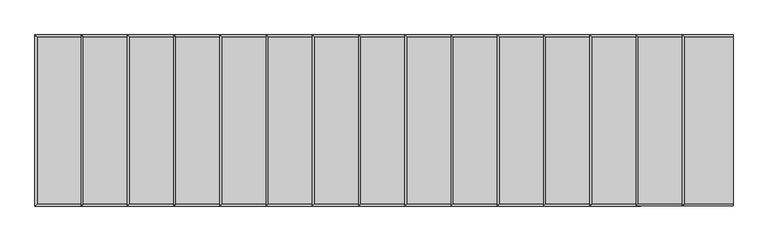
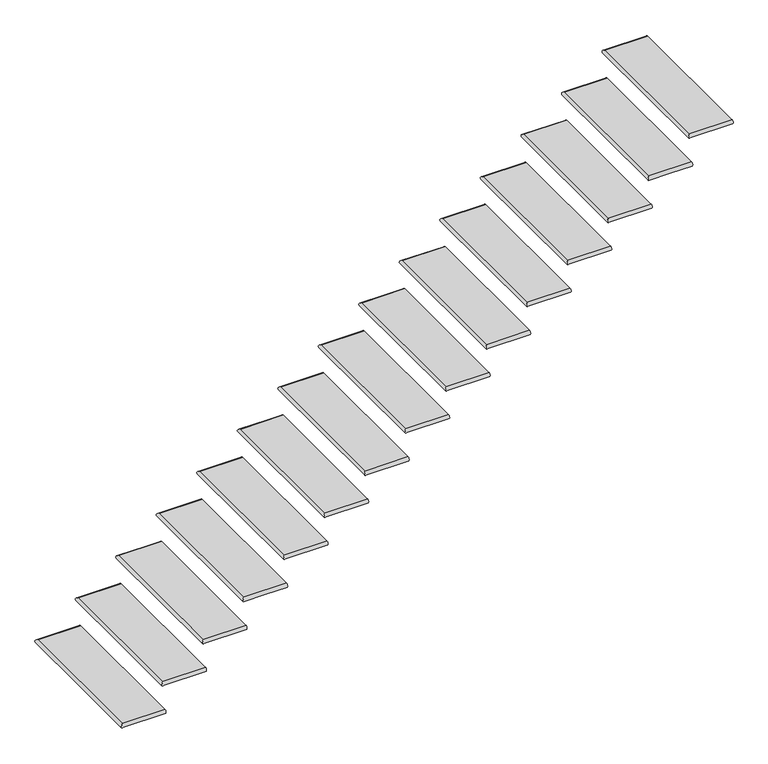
"""IFC4 building model written with IfcOpenShell, lengths in millimetres: stair flight geometry."""

from ifc_helpers import new_model, si_unit, frame, origin, place, context, project, spatial, circle_curve, ellipse_curve, source, transform, mapped, element, save
from ifc_brep_helpers import plane_surface, cylinder_surface, advanced_brep


def stair_flight_3500c2e6(model_context):
    return source(origin(), model_context, "Body", "AdvancedBrep", [
        advanced_brep(
        [(-27218.1481446, -8236.0871906, 165.1), (-27218.1481446, -8236.0871906, 190.5), (-27218.1481446, -7321.6871906, 190.5), (-27218.1481446, -7321.6871906, 165.1), (-26951.4481446, -8236.0871906, 190.5), (-26951.4481446, -7321.6871906, 190.5), (-26951.4481446, -7321.6871906, 165.1), (-26951.4481446, -8236.0871906, 165.1)],
        [
            (0, 1, ellipse_curve(frame((-27218.1481446, -8236.0871906, 177.8), z_axis=(-0.7071067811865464, 0.7071067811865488, 0.0), x_axis=(-0.7071067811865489, -0.707106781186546, 0.0)), 17.9605122, 12.7)),
            (1, 2),
            (2, 3, ellipse_curve(frame((-27218.1481446, -7321.6871906, 177.8), z_axis=(-0.7071067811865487, -0.7071067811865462, 0.0), x_axis=(0.7071067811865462, -0.707106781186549, 0.0)), 17.9605122, 12.7)),
            (3, 0),
            (4, 5),
            (5, 2),
            (1, 4),
            (6, 7),
            (7, 0),
            (3, 6),
            (4, 7, circle_curve(frame((-26951.4481446, -8236.0871906, 177.8), z_axis=(1.0, 0.0, 0.0), x_axis=(0.0, 1.0, 0.0)), 12.7)),
            (6, 5, circle_curve(frame((-26951.4481446, -7321.6871906, 177.8), z_axis=(1.0, 0.0, 0.0), x_axis=(0.0, -1.0, 0.0)), 12.7)),
        ],
        [
            cylinder_surface(frame((-27218.1481446, -8236.0871906, 177.8), z_axis=(0.0, -1.0, 0.0), x_axis=(1.0, 0.0, 0.0)), 12.7),
            plane_surface(frame((-27230.8481446, -7321.6871906, 190.5), z_axis=(0.0, 0.0, 1.0), x_axis=(-1.0, 0.0, 0.0))),
            plane_surface(frame((-27230.8481446, -7321.6871906, 165.1), z_axis=(0.0, 0.0, -1.0), x_axis=(1.0, 0.0, 0.0))),
            plane_surface(frame((-26951.4481446, -8236.0871906, 190.5), z_axis=(1.0, 0.0, 0.0), x_axis=(0.0, 0.0, -1.0))),
            cylinder_surface(frame((-26951.4481446, -8236.0871906, 177.8), z_axis=(1.0, 0.0, 0.0), x_axis=(0.0, 1.0, 0.0)), 12.7),
            cylinder_surface(frame((-27218.1481446, -7321.6871906, 177.8), z_axis=(-1.0, 0.0, 0.0), x_axis=(0.0, -1.0, 0.0)), 12.7),
        ],
        [
            (0, [[1, 2, 3, 4]]),
            (1, [[5, 6, -2, 7]]),
            (2, [[8, 9, -4, 10]]),
            (3, [[-5, 11, -8, 12]]),
            (4, [[-11, -7, -1, -9]]),
            (5, [[-3, -6, -12, -10]]),
        ],
    ),
        advanced_brep(
        [(-26697.4481446, -8236.0871906, 381.0), (-26697.4481446, -7321.6871906, 381.0), (-26964.1481446, -7321.6871906, 381.0), (-26964.1481446, -8236.0871906, 381.0), (-26697.4481446, -7321.6871906, 355.6), (-26697.4481446, -8236.0871906, 355.6), (-26964.1481446, -8236.0871906, 355.6), (-26964.1481446, -7321.6871906, 355.6)],
        [
            (0, 1),
            (1, 2),
            (2, 3),
            (3, 0),
            (4, 5),
            (5, 6),
            (6, 7),
            (7, 4),
            (0, 5, circle_curve(frame((-26697.4481446, -8236.0871906, 368.3), z_axis=(1.0, 0.0, 0.0), x_axis=(0.0, 1.0, 0.0)), 12.7)),
            (4, 1, circle_curve(frame((-26697.4481446, -7321.6871906, 368.3), z_axis=(1.0, 0.0, 0.0), x_axis=(0.0, -1.0, 0.0)), 12.7)),
            (3, 6, ellipse_curve(frame((-26964.1481446, -8236.0871906, 368.3), z_axis=(0.7071067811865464, -0.7071067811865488, 0.0), x_axis=(0.7071067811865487, 0.7071067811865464, 0.0)), 17.9605122, 12.7)),
            (2, 7, ellipse_curve(frame((-26964.1481446, -7321.6871906, 368.3), z_axis=(-0.7071067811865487, -0.7071067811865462, 0.0), x_axis=(0.7071067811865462, -0.707106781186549, 0.0)), 17.9605122, 12.7)),
        ],
        [
            plane_surface(frame((-26976.8481446, -7321.6871906, 381.0), z_axis=(0.0, 0.0, 1.0), x_axis=(-1.0, 0.0, 0.0))),
            plane_surface(frame((-26976.8481446, -7321.6871906, 355.6), z_axis=(0.0, 0.0, -1.0), x_axis=(1.0, 0.0, 0.0))),
            plane_surface(frame((-26697.4481446, -8236.0871906, 381.0), z_axis=(1.0, 0.0, 0.0), x_axis=(0.0, 0.0, -1.0))),
            cylinder_surface(frame((-26697.4481446, -8236.0871906, 368.3), z_axis=(1.0, 0.0, 0.0), x_axis=(0.0, 1.0, 0.0)), 12.7),
            cylinder_surface(frame((-26964.1481446, -8236.0871906, 368.3), z_axis=(0.0, -1.0, 0.0), x_axis=(1.0, 0.0, 0.0)), 12.7),
            cylinder_surface(frame((-26964.1481446, -7321.6871906, 368.3), z_axis=(-1.0, 0.0, 0.0), x_axis=(0.0, -1.0, 0.0)), 12.7),
        ],
        [
            (0, [[1, 2, 3, 4]]),
            (1, [[5, 6, 7, 8]]),
            (2, [[-1, 9, -5, 10]]),
            (3, [[-9, -4, 11, -6]]),
            (4, [[-11, -3, 12, -7]]),
            (5, [[-12, -2, -10, -8]]),
        ],
    ),
        advanced_brep(
        [(-26443.4481446, -8236.0871906, 571.5), (-26443.4481446, -7321.6871906, 571.5), (-26710.1481446, -7321.6871906, 571.5), (-26710.1481446, -8236.0871906, 571.5), (-26443.4481446, -7321.6871906, 546.1), (-26443.4481446, -8236.0871906, 546.1), (-26710.1481446, -8236.0871906, 546.1), (-26710.1481446, -7321.6871906, 546.1)],
        [
            (0, 1),
            (1, 2),
            (2, 3),
            (3, 0),
            (4, 5),
            (5, 6),
            (6, 7),
            (7, 4),
            (0, 5, circle_curve(frame((-26443.4481446, -8236.0871906, 558.8), z_axis=(1.0, 0.0, 0.0), x_axis=(0.0, 1.0, 0.0)), 12.7)),
            (4, 1, circle_curve(frame((-26443.4481446, -7321.6871906, 558.8), z_axis=(1.0, 0.0, 0.0), x_axis=(0.0, -1.0, 0.0)), 12.7)),
            (3, 6, ellipse_curve(frame((-26710.1481446, -8236.0871906, 558.8), z_axis=(0.7071067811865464, -0.7071067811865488, 0.0), x_axis=(0.7071067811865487, 0.7071067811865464, 0.0)), 17.9605122, 12.7)),
            (2, 7, ellipse_curve(frame((-26710.1481446, -7321.6871906, 558.8), z_axis=(-0.7071067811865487, -0.7071067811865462, 0.0), x_axis=(0.7071067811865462, -0.707106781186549, 0.0)), 17.9605122, 12.7)),
        ],
        [
            plane_surface(frame((-26722.8481446, -7321.6871906, 571.5), z_axis=(0.0, 0.0, 1.0), x_axis=(-1.0, 0.0, 0.0))),
            plane_surface(frame((-26722.8481446, -7321.6871906, 546.1), z_axis=(0.0, 0.0, -1.0), x_axis=(1.0, 0.0, 0.0))),
            plane_surface(frame((-26443.4481446, -8236.0871906, 571.5), z_axis=(1.0, 0.0, 0.0), x_axis=(0.0, 0.0, -1.0))),
            cylinder_surface(frame((-26443.4481446, -8236.0871906, 558.8), z_axis=(1.0, 0.0, 0.0), x_axis=(0.0, 1.0, 0.0)), 12.7),
            cylinder_surface(frame((-26710.1481446, -8236.0871906, 558.8), z_axis=(0.0, -1.0, 0.0), x_axis=(1.0, 0.0, 0.0)), 12.7),
            cylinder_surface(frame((-26710.1481446, -7321.6871906, 558.8), z_axis=(-1.0, 0.0, 0.0), x_axis=(0.0, -1.0, 0.0)), 12.7),
        ],
        [
            (0, [[1, 2, 3, 4]]),
            (1, [[5, 6, 7, 8]]),
            (2, [[-1, 9, -5, 10]]),
            (3, [[-9, -4, 11, -6]]),
            (4, [[-11, -3, 12, -7]]),
            (5, [[-12, -2, -10, -8]]),
        ],
    ),
        advanced_brep(
        [(-26189.4481446, -8236.0871906, 762.0), (-26189.4481446, -7321.6871906, 762.0), (-26456.1481446, -7321.6871906, 762.0), (-26456.1481446, -8236.0871906, 762.0), (-26189.4481446, -7321.6871906, 736.6), (-26189.4481446, -8236.0871906, 736.6), (-26456.1481446, -8236.0871906, 736.6), (-26456.1481446, -7321.6871906, 736.6)],
        [
            (0, 1),
            (1, 2),
            (2, 3),
            (3, 0),
            (4, 5),
            (5, 6),
            (6, 7),
            (7, 4),
            (0, 5, circle_curve(frame((-26189.4481446, -8236.0871906, 749.3), z_axis=(1.0, 0.0, 0.0), x_axis=(0.0, 1.0, 0.0)), 12.7)),
            (4, 1, circle_curve(frame((-26189.4481446, -7321.6871906, 749.3), z_axis=(1.0, 0.0, 0.0), x_axis=(0.0, -1.0, 0.0)), 12.7)),
            (3, 6, ellipse_curve(frame((-26456.1481446, -8236.0871906, 749.3), z_axis=(0.7071067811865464, -0.7071067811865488, 0.0), x_axis=(0.7071067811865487, 0.7071067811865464, 0.0)), 17.9605122, 12.7)),
            (2, 7, ellipse_curve(frame((-26456.1481446, -7321.6871906, 749.3), z_axis=(-0.7071067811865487, -0.7071067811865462, 0.0), x_axis=(0.7071067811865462, -0.707106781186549, 0.0)), 17.9605122, 12.7)),
        ],
        [
            plane_surface(frame((-26468.8481446, -7321.6871906, 762.0), z_axis=(0.0, 0.0, 1.0), x_axis=(-1.0, 0.0, 0.0))),
            plane_surface(frame((-26468.8481446, -7321.6871906, 736.6), z_axis=(0.0, 0.0, -1.0), x_axis=(1.0, 0.0, 0.0))),
            plane_surface(frame((-26189.4481446, -8236.0871906, 762.0), z_axis=(1.0, 0.0, 0.0), x_axis=(0.0, 0.0, -1.0))),
            cylinder_surface(frame((-26189.4481446, -8236.0871906, 749.3), z_axis=(1.0, 0.0, 0.0), x_axis=(0.0, 1.0, 0.0)), 12.7),
            cylinder_surface(frame((-26456.1481446, -8236.0871906, 749.3), z_axis=(0.0, -1.0, 0.0), x_axis=(1.0, 0.0, 0.0)), 12.7),
            cylinder_surface(frame((-26456.1481446, -7321.6871906, 749.3), z_axis=(-1.0, 0.0, 0.0), x_axis=(0.0, -1.0, 0.0)), 12.7),
        ],
        [
            (0, [[1, 2, 3, 4]]),
            (1, [[5, 6, 7, 8]]),
            (2, [[-1, 9, -5, 10]]),
            (3, [[-9, -4, 11, -6]]),
            (4, [[-11, -3, 12, -7]]),
            (5, [[-12, -2, -10, -8]]),
        ],
    ),
        advanced_brep(
        [(-25935.4481446, -8236.0871906, 952.5), (-25935.4481446, -7321.6871906, 952.5), (-26202.1481446, -7321.6871906, 952.5), (-26202.1481446, -8236.0871906, 952.5), (-25935.4481446, -7321.6871906, 927.1), (-25935.4481446, -8236.0871906, 927.1), (-26202.1481446, -8236.0871906, 927.1), (-26202.1481446, -7321.6871906, 927.1)],
        [
            (0, 1),
            (1, 2),
            (2, 3),
            (3, 0),
            (4, 5),
            (5, 6),
            (6, 7),
            (7, 4),
            (0, 5, circle_curve(frame((-25935.4481446, -8236.0871906, 939.8), z_axis=(1.0, 0.0, 0.0), x_axis=(0.0, 1.0, 0.0)), 12.7)),
            (4, 1, circle_curve(frame((-25935.4481446, -7321.6871906, 939.8), z_axis=(1.0, 0.0, 0.0), x_axis=(0.0, -1.0, 0.0)), 12.7)),
            (3, 6, ellipse_curve(frame((-26202.1481446, -8236.0871906, 939.8), z_axis=(0.7071067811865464, -0.7071067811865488, 0.0), x_axis=(0.7071067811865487, 0.7071067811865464, 0.0)), 17.9605122, 12.7)),
            (2, 7, ellipse_curve(frame((-26202.1481446, -7321.6871906, 939.8), z_axis=(-0.7071067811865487, -0.7071067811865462, 0.0), x_axis=(0.7071067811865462, -0.707106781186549, 0.0)), 17.9605122, 12.7)),
        ],
        [
            plane_surface(frame((-26214.8481446, -7321.6871906, 952.5), z_axis=(0.0, 0.0, 1.0), x_axis=(-1.0, 0.0, 0.0))),
            plane_surface(frame((-26214.8481446, -7321.6871906, 927.1), z_axis=(0.0, 0.0, -1.0), x_axis=(1.0, 0.0, 0.0))),
            plane_surface(frame((-25935.4481446, -8236.0871906, 952.5), z_axis=(1.0, 0.0, 0.0), x_axis=(0.0, 0.0, -1.0))),
            cylinder_surface(frame((-25935.4481446, -8236.0871906, 939.8), z_axis=(1.0, 0.0, 0.0), x_axis=(0.0, 1.0, 0.0)), 12.7),
            cylinder_surface(frame((-26202.1481446, -8236.0871906, 939.8), z_axis=(0.0, -1.0, 0.0), x_axis=(1.0, 0.0, 0.0)), 12.7),
            cylinder_surface(frame((-26202.1481446, -7321.6871906, 939.8), z_axis=(-1.0, 0.0, 0.0), x_axis=(0.0, -1.0, 0.0)), 12.7),
        ],
        [
            (0, [[1, 2, 3, 4]]),
            (1, [[5, 6, 7, 8]]),
            (2, [[-1, 9, -5, 10]]),
            (3, [[-9, -4, 11, -6]]),
            (4, [[-11, -3, 12, -7]]),
            (5, [[-12, -2, -10, -8]]),
        ],
    ),
        advanced_brep(
        [(-25681.4481446, -8236.0871906, 1143.0), (-25681.4481446, -7321.6871906, 1143.0), (-25948.1481446, -7321.6871906, 1143.0), (-25948.1481446, -8236.0871906, 1143.0), (-25681.4481446, -7321.6871906, 1117.6), (-25681.4481446, -8236.0871906, 1117.6), (-25948.1481446, -8236.0871906, 1117.6), (-25948.1481446, -7321.6871906, 1117.6)],
        [
            (0, 1),
            (1, 2),
            (2, 3),
            (3, 0),
            (4, 5),
            (5, 6),
            (6, 7),
            (7, 4),
            (0, 5, circle_curve(frame((-25681.4481446, -8236.0871906, 1130.3), z_axis=(1.0, 0.0, 0.0), x_axis=(0.0, 1.0, 0.0)), 12.7)),
            (4, 1, circle_curve(frame((-25681.4481446, -7321.6871906, 1130.3), z_axis=(1.0, 0.0, 0.0), x_axis=(0.0, -1.0, 0.0)), 12.7)),
            (3, 6, ellipse_curve(frame((-25948.1481446, -8236.0871906, 1130.3), z_axis=(0.7071067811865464, -0.7071067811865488, 0.0), x_axis=(0.7071067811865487, 0.7071067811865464, 0.0)), 17.9605122, 12.7)),
            (2, 7, ellipse_curve(frame((-25948.1481446, -7321.6871906, 1130.3), z_axis=(-0.7071067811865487, -0.7071067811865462, 0.0), x_axis=(0.7071067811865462, -0.707106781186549, 0.0)), 17.9605122, 12.7)),
        ],
        [
            plane_surface(frame((-25960.8481446, -7321.6871906, 1143.0), z_axis=(0.0, 0.0, 1.0), x_axis=(-1.0, 0.0, 0.0))),
            plane_surface(frame((-25960.8481446, -7321.6871906, 1117.6), z_axis=(0.0, 0.0, -1.0), x_axis=(1.0, 0.0, 0.0))),
            plane_surface(frame((-25681.4481446, -8236.0871906, 1143.0), z_axis=(1.0, 0.0, 0.0), x_axis=(0.0, 0.0, -1.0))),
            cylinder_surface(frame((-25681.4481446, -8236.0871906, 1130.3), z_axis=(1.0, 0.0, 0.0), x_axis=(0.0, 1.0, 0.0)), 12.7),
            cylinder_surface(frame((-25948.1481446, -8236.0871906, 1130.3), z_axis=(0.0, -1.0, 0.0), x_axis=(1.0, 0.0, 0.0)), 12.7),
            cylinder_surface(frame((-25948.1481446, -7321.6871906, 1130.3), z_axis=(-1.0, 0.0, 0.0), x_axis=(0.0, -1.0, 0.0)), 12.7),
        ],
        [
            (0, [[1, 2, 3, 4]]),
            (1, [[5, 6, 7, 8]]),
            (2, [[-1, 9, -5, 10]]),
            (3, [[-9, -4, 11, -6]]),
            (4, [[-11, -3, 12, -7]]),
            (5, [[-12, -2, -10, -8]]),
        ],
    ),
        advanced_brep(
        [(-25427.4481446, -8236.0871906, 1333.5), (-25427.4481446, -7321.6871906, 1333.5), (-25694.1481446, -7321.6871906, 1333.5), (-25694.1481446, -8236.0871906, 1333.5), (-25427.4481446, -7321.6871906, 1308.1), (-25427.4481446, -8236.0871906, 1308.1), (-25694.1481446, -8236.0871906, 1308.1), (-25694.1481446, -7321.6871906, 1308.1)],
        [
            (0, 1),
            (1, 2),
            (2, 3),
            (3, 0),
            (4, 5),
            (5, 6),
            (6, 7),
            (7, 4),
            (0, 5, circle_curve(frame((-25427.4481446, -8236.0871906, 1320.8), z_axis=(1.0, 0.0, 0.0), x_axis=(0.0, 1.0, 0.0)), 12.7)),
            (4, 1, circle_curve(frame((-25427.4481446, -7321.6871906, 1320.8), z_axis=(1.0, 0.0, 0.0), x_axis=(0.0, -1.0, 0.0)), 12.7)),
            (3, 6, ellipse_curve(frame((-25694.1481446, -8236.0871906, 1320.8), z_axis=(0.7071067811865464, -0.7071067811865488, 0.0), x_axis=(0.7071067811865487, 0.7071067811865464, 0.0)), 17.9605122, 12.7)),
            (2, 7, ellipse_curve(frame((-25694.1481446, -7321.6871906, 1320.8), z_axis=(-0.7071067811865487, -0.7071067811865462, 0.0), x_axis=(0.7071067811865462, -0.707106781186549, 0.0)), 17.9605122, 12.7)),
        ],
        [
            plane_surface(frame((-25706.8481446, -7321.6871906, 1333.5), z_axis=(0.0, 0.0, 1.0), x_axis=(-1.0, 0.0, 0.0))),
            plane_surface(frame((-25706.8481446, -7321.6871906, 1308.1), z_axis=(0.0, 0.0, -1.0), x_axis=(1.0, 0.0, 0.0))),
            plane_surface(frame((-25427.4481446, -8236.0871906, 1333.5), z_axis=(1.0, 0.0, 0.0), x_axis=(0.0, 0.0, -1.0))),
            cylinder_surface(frame((-25427.4481446, -8236.0871906, 1320.8), z_axis=(1.0, 0.0, 0.0), x_axis=(0.0, 1.0, 0.0)), 12.7),
            cylinder_surface(frame((-25694.1481446, -8236.0871906, 1320.8), z_axis=(0.0, -1.0, 0.0), x_axis=(1.0, 0.0, 0.0)), 12.7),
            cylinder_surface(frame((-25694.1481446, -7321.6871906, 1320.8), z_axis=(-1.0, 0.0, 0.0), x_axis=(0.0, -1.0, 0.0)), 12.7),
        ],
        [
            (0, [[1, 2, 3, 4]]),
            (1, [[5, 6, 7, 8]]),
            (2, [[-1, 9, -5, 10]]),
            (3, [[-9, -4, 11, -6]]),
            (4, [[-11, -3, 12, -7]]),
            (5, [[-12, -2, -10, -8]]),
        ],
    ),
        advanced_brep(
        [(-25173.4481446, -8236.0871906, 1524.0), (-25173.4481446, -7321.6871906, 1524.0), (-25440.1481446, -7321.6871906, 1524.0), (-25440.1481446, -8236.0871906, 1524.0), (-25173.4481446, -7321.6871906, 1498.6), (-25173.4481446, -8236.0871906, 1498.6), (-25440.1481446, -8236.0871906, 1498.6), (-25440.1481446, -7321.6871906, 1498.6)],
        [
            (0, 1),
            (1, 2),
            (2, 3),
            (3, 0),
            (4, 5),
            (5, 6),
            (6, 7),
            (7, 4),
            (0, 5, circle_curve(frame((-25173.4481446, -8236.0871906, 1511.3), z_axis=(1.0, 0.0, 0.0), x_axis=(0.0, 1.0, 0.0)), 12.7)),
            (4, 1, circle_curve(frame((-25173.4481446, -7321.6871906, 1511.3), z_axis=(1.0, 0.0, 0.0), x_axis=(0.0, -1.0, 0.0)), 12.7)),
            (3, 6, ellipse_curve(frame((-25440.1481446, -8236.0871906, 1511.3), z_axis=(0.7071067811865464, -0.7071067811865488, 0.0), x_axis=(0.7071067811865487, 0.7071067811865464, 0.0)), 17.9605122, 12.7)),
            (2, 7, ellipse_curve(frame((-25440.1481446, -7321.6871906, 1511.3), z_axis=(-0.7071067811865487, -0.7071067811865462, 0.0), x_axis=(0.7071067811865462, -0.707106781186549, 0.0)), 17.9605122, 12.7)),
        ],
        [
            plane_surface(frame((-25452.8481446, -7321.6871906, 1524.0), z_axis=(0.0, 0.0, 1.0), x_axis=(-1.0, 0.0, 0.0))),
            plane_surface(frame((-25452.8481446, -7321.6871906, 1498.6), z_axis=(0.0, 0.0, -1.0), x_axis=(1.0, 0.0, 0.0))),
            plane_surface(frame((-25173.4481446, -8236.0871906, 1524.0), z_axis=(1.0, 0.0, 0.0), x_axis=(0.0, 0.0, -1.0))),
            cylinder_surface(frame((-25173.4481446, -8236.0871906, 1511.3), z_axis=(1.0, 0.0, 0.0), x_axis=(0.0, 1.0, 0.0)), 12.7),
            cylinder_surface(frame((-25440.1481446, -8236.0871906, 1511.3), z_axis=(0.0, -1.0, 0.0), x_axis=(1.0, 0.0, 0.0)), 12.7),
            cylinder_surface(frame((-25440.1481446, -7321.6871906, 1511.3), z_axis=(-1.0, 0.0, 0.0), x_axis=(0.0, -1.0, 0.0)), 12.7),
        ],
        [
            (0, [[1, 2, 3, 4]]),
            (1, [[5, 6, 7, 8]]),
            (2, [[-1, 9, -5, 10]]),
            (3, [[-9, -4, 11, -6]]),
            (4, [[-11, -3, 12, -7]]),
            (5, [[-12, -2, -10, -8]]),
        ],
    ),
        advanced_brep(
        [(-24919.4481446, -8236.0871906, 1714.5), (-24919.4481446, -7321.6871906, 1714.5), (-25186.1481446, -7321.6871906, 1714.5), (-25186.1481446, -8236.0871906, 1714.5), (-24919.4481446, -7321.6871906, 1689.1), (-24919.4481446, -8236.0871906, 1689.1), (-25186.1481446, -8236.0871906, 1689.1), (-25186.1481446, -7321.6871906, 1689.1)],
        [
            (0, 1),
            (1, 2),
            (2, 3),
            (3, 0),
            (4, 5),
            (5, 6),
            (6, 7),
            (7, 4),
            (0, 5, circle_curve(frame((-24919.4481446, -8236.0871906, 1701.8), z_axis=(1.0, 0.0, 0.0), x_axis=(0.0, 1.0, 0.0)), 12.7)),
            (4, 1, circle_curve(frame((-24919.4481446, -7321.6871906, 1701.8), z_axis=(1.0, 0.0, 0.0), x_axis=(0.0, -1.0, 0.0)), 12.7)),
            (3, 6, ellipse_curve(frame((-25186.1481446, -8236.0871906, 1701.8), z_axis=(0.7071067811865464, -0.7071067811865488, 0.0), x_axis=(0.7071067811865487, 0.7071067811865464, 0.0)), 17.9605122, 12.7)),
            (2, 7, ellipse_curve(frame((-25186.1481446, -7321.6871906, 1701.8), z_axis=(-0.7071067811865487, -0.7071067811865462, 0.0), x_axis=(0.7071067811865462, -0.707106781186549, 0.0)), 17.9605122, 12.7)),
        ],
        [
            plane_surface(frame((-25198.8481446, -7321.6871906, 1714.5), z_axis=(0.0, 0.0, 1.0), x_axis=(-1.0, 0.0, 0.0))),
            plane_surface(frame((-25198.8481446, -7321.6871906, 1689.1), z_axis=(0.0, 0.0, -1.0), x_axis=(1.0, 0.0, 0.0))),
            plane_surface(frame((-24919.4481446, -8236.0871906, 1714.5), z_axis=(1.0, 0.0, 0.0), x_axis=(0.0, 0.0, -1.0))),
            cylinder_surface(frame((-24919.4481446, -8236.0871906, 1701.8), z_axis=(1.0, 0.0, 0.0), x_axis=(0.0, 1.0, 0.0)), 12.7),
            cylinder_surface(frame((-25186.1481446, -8236.0871906, 1701.8), z_axis=(0.0, -1.0, 0.0), x_axis=(1.0, 0.0, 0.0)), 12.7),
            cylinder_surface(frame((-25186.1481446, -7321.6871906, 1701.8), z_axis=(-1.0, 0.0, 0.0), x_axis=(0.0, -1.0, 0.0)), 12.7),
        ],
        [
            (0, [[1, 2, 3, 4]]),
            (1, [[5, 6, 7, 8]]),
            (2, [[-1, 9, -5, 10]]),
            (3, [[-9, -4, 11, -6]]),
            (4, [[-11, -3, 12, -7]]),
            (5, [[-12, -2, -10, -8]]),
        ],
    ),
        advanced_brep(
        [(-24665.4481446, -8236.0871906, 1905.0), (-24665.4481446, -7321.6871906, 1905.0), (-24932.1481446, -7321.6871906, 1905.0), (-24932.1481446, -8236.0871906, 1905.0), (-24665.4481446, -7321.6871906, 1879.6), (-24665.4481446, -8236.0871906, 1879.6), (-24932.1481446, -8236.0871906, 1879.6), (-24932.1481446, -7321.6871906, 1879.6)],
        [
            (0, 1),
            (1, 2),
            (2, 3),
            (3, 0),
            (4, 5),
            (5, 6),
            (6, 7),
            (7, 4),
            (0, 5, circle_curve(frame((-24665.4481446, -8236.0871906, 1892.3), z_axis=(1.0, 0.0, 0.0), x_axis=(0.0, 1.0, 0.0)), 12.7)),
            (4, 1, circle_curve(frame((-24665.4481446, -7321.6871906, 1892.3), z_axis=(1.0, 0.0, 0.0), x_axis=(0.0, -1.0, 0.0)), 12.7)),
            (3, 6, ellipse_curve(frame((-24932.1481446, -8236.0871906, 1892.3), z_axis=(0.7071067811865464, -0.7071067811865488, 0.0), x_axis=(0.7071067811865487, 0.7071067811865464, 0.0)), 17.9605122, 12.7)),
            (2, 7, ellipse_curve(frame((-24932.1481446, -7321.6871906, 1892.3), z_axis=(-0.7071067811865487, -0.7071067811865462, 0.0), x_axis=(0.7071067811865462, -0.707106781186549, 0.0)), 17.9605122, 12.7)),
        ],
        [
            plane_surface(frame((-24944.8481446, -7321.6871906, 1905.0), z_axis=(0.0, 0.0, 1.0), x_axis=(-1.0, 0.0, 0.0))),
            plane_surface(frame((-24944.8481446, -7321.6871906, 1879.6), z_axis=(0.0, 0.0, -1.0), x_axis=(1.0, 0.0, 0.0))),
            plane_surface(frame((-24665.4481446, -8236.0871906, 1905.0), z_axis=(1.0, 0.0, 0.0), x_axis=(0.0, 0.0, -1.0))),
            cylinder_surface(frame((-24665.4481446, -8236.0871906, 1892.3), z_axis=(1.0, 0.0, 0.0), x_axis=(0.0, 1.0, 0.0)), 12.7),
            cylinder_surface(frame((-24932.1481446, -8236.0871906, 1892.3), z_axis=(0.0, -1.0, 0.0), x_axis=(1.0, 0.0, 0.0)), 12.7),
            cylinder_surface(frame((-24932.1481446, -7321.6871906, 1892.3), z_axis=(-1.0, 0.0, 0.0), x_axis=(0.0, -1.0, 0.0)), 12.7),
        ],
        [
            (0, [[1, 2, 3, 4]]),
            (1, [[5, 6, 7, 8]]),
            (2, [[-1, 9, -5, 10]]),
            (3, [[-9, -4, 11, -6]]),
            (4, [[-11, -3, 12, -7]]),
            (5, [[-12, -2, -10, -8]]),
        ],
    ),
        advanced_brep(
        [(-24411.4481446, -8236.0871906, 2095.5), (-24411.4481446, -7321.6871906, 2095.5), (-24678.1481446, -7321.6871906, 2095.5), (-24678.1481446, -8236.0871906, 2095.5), (-24411.4481446, -7321.6871906, 2070.1), (-24411.4481446, -8236.0871906, 2070.1), (-24678.1481446, -8236.0871906, 2070.1), (-24678.1481446, -7321.6871906, 2070.1)],
        [
            (0, 1),
            (1, 2),
            (2, 3),
            (3, 0),
            (4, 5),
            (5, 6),
            (6, 7),
            (7, 4),
            (0, 5, circle_curve(frame((-24411.4481446, -8236.0871906, 2082.8), z_axis=(1.0, 0.0, 0.0), x_axis=(0.0, 1.0, 0.0)), 12.7)),
            (4, 1, circle_curve(frame((-24411.4481446, -7321.6871906, 2082.8), z_axis=(1.0, 0.0, 0.0), x_axis=(0.0, -1.0, 0.0)), 12.7)),
            (3, 6, ellipse_curve(frame((-24678.1481446, -8236.0871906, 2082.8), z_axis=(0.7071067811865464, -0.7071067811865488, 0.0), x_axis=(0.7071067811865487, 0.7071067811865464, 0.0)), 17.9605122, 12.7)),
            (2, 7, ellipse_curve(frame((-24678.1481446, -7321.6871906, 2082.8), z_axis=(-0.7071067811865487, -0.7071067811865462, 0.0), x_axis=(0.7071067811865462, -0.707106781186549, 0.0)), 17.9605122, 12.7)),
        ],
        [
            plane_surface(frame((-24690.8481446, -7321.6871906, 2095.5), z_axis=(0.0, 0.0, 1.0), x_axis=(-1.0, 0.0, 0.0))),
            plane_surface(frame((-24690.8481446, -7321.6871906, 2070.1), z_axis=(0.0, 0.0, -1.0), x_axis=(1.0, 0.0, 0.0))),
            plane_surface(frame((-24411.4481446, -8236.0871906, 2095.5), z_axis=(1.0, 0.0, 0.0), x_axis=(0.0, 0.0, -1.0))),
            cylinder_surface(frame((-24411.4481446, -8236.0871906, 2082.8), z_axis=(1.0, 0.0, 0.0), x_axis=(0.0, 1.0, 0.0)), 12.7),
            cylinder_surface(frame((-24678.1481446, -8236.0871906, 2082.8), z_axis=(0.0, -1.0, 0.0), x_axis=(1.0, 0.0, 0.0)), 12.7),
            cylinder_surface(frame((-24678.1481446, -7321.6871906, 2082.8), z_axis=(-1.0, 0.0, 0.0), x_axis=(0.0, -1.0, 0.0)), 12.7),
        ],
        [
            (0, [[1, 2, 3, 4]]),
            (1, [[5, 6, 7, 8]]),
            (2, [[-1, 9, -5, 10]]),
            (3, [[-9, -4, 11, -6]]),
            (4, [[-11, -3, 12, -7]]),
            (5, [[-12, -2, -10, -8]]),
        ],
    ),
        advanced_brep(
        [(-24157.4481446, -8236.0871906, 2286.0), (-24157.4481446, -7321.6871906, 2286.0), (-24424.1481446, -7321.6871906, 2286.0), (-24424.1481446, -8236.0871906, 2286.0), (-24157.4481446, -7321.6871906, 2260.6), (-24157.4481446, -8236.0871906, 2260.6), (-24424.1481446, -8236.0871906, 2260.6), (-24424.1481446, -7321.6871906, 2260.6)],
        [
            (0, 1),
            (1, 2),
            (2, 3),
            (3, 0),
            (4, 5),
            (5, 6),
            (6, 7),
            (7, 4),
            (0, 5, circle_curve(frame((-24157.4481446, -8236.0871906, 2273.3), z_axis=(1.0, 0.0, 0.0), x_axis=(0.0, 1.0, 0.0)), 12.7)),
            (4, 1, circle_curve(frame((-24157.4481446, -7321.6871906, 2273.3), z_axis=(1.0, 0.0, 0.0), x_axis=(0.0, -1.0, 0.0)), 12.7)),
            (3, 6, ellipse_curve(frame((-24424.1481446, -8236.0871906, 2273.3), z_axis=(0.7071067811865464, -0.7071067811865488, 0.0), x_axis=(0.7071067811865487, 0.7071067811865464, 0.0)), 17.9605122, 12.7)),
            (2, 7, ellipse_curve(frame((-24424.1481446, -7321.6871906, 2273.3), z_axis=(-0.7071067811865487, -0.7071067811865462, 0.0), x_axis=(0.7071067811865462, -0.707106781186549, 0.0)), 17.9605122, 12.7)),
        ],
        [
            plane_surface(frame((-24436.8481446, -7321.6871906, 2286.0), z_axis=(0.0, 0.0, 1.0), x_axis=(-1.0, 0.0, 0.0))),
            plane_surface(frame((-24436.8481446, -7321.6871906, 2260.6), z_axis=(0.0, 0.0, -1.0), x_axis=(1.0, 0.0, 0.0))),
            plane_surface(frame((-24157.4481446, -8236.0871906, 2286.0), z_axis=(1.0, 0.0, 0.0), x_axis=(0.0, 0.0, -1.0))),
            cylinder_surface(frame((-24157.4481446, -8236.0871906, 2273.3), z_axis=(1.0, 0.0, 0.0), x_axis=(0.0, 1.0, 0.0)), 12.7),
            cylinder_surface(frame((-24424.1481446, -8236.0871906, 2273.3), z_axis=(0.0, -1.0, 0.0), x_axis=(1.0, 0.0, 0.0)), 12.7),
            cylinder_surface(frame((-24424.1481446, -7321.6871906, 2273.3), z_axis=(-1.0, 0.0, 0.0), x_axis=(0.0, -1.0, 0.0)), 12.7),
        ],
        [
            (0, [[1, 2, 3, 4]]),
            (1, [[5, 6, 7, 8]]),
            (2, [[-1, 9, -5, 10]]),
            (3, [[-9, -4, 11, -6]]),
            (4, [[-11, -3, 12, -7]]),
            (5, [[-12, -2, -10, -8]]),
        ],
    ),
        advanced_brep(
        [(-23903.4481446, -8236.0871906, 2476.5), (-23903.4481446, -7321.6871906, 2476.5), (-24170.1481446, -7321.6871906, 2476.5), (-24170.1481446, -8236.0871906, 2476.5), (-23903.4481446, -7321.6871906, 2451.1), (-23903.4481446, -8236.0871906, 2451.1), (-24170.1481446, -8236.0871906, 2451.1), (-24170.1481446, -7321.6871906, 2451.1)],
        [
            (0, 1),
            (1, 2),
            (2, 3),
            (3, 0),
            (4, 5),
            (5, 6),
            (6, 7),
            (7, 4),
            (0, 5, circle_curve(frame((-23903.4481446, -8236.0871906, 2463.8), z_axis=(1.0, 0.0, 0.0), x_axis=(0.0, 1.0, 0.0)), 12.7)),
            (4, 1, circle_curve(frame((-23903.4481446, -7321.6871906, 2463.8), z_axis=(1.0, 0.0, 0.0), x_axis=(0.0, -1.0, 0.0)), 12.7)),
            (3, 6, ellipse_curve(frame((-24170.1481446, -8236.0871906, 2463.8), z_axis=(0.7071067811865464, -0.7071067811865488, 0.0), x_axis=(0.7071067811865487, 0.7071067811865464, 0.0)), 17.9605122, 12.7)),
            (2, 7, ellipse_curve(frame((-24170.1481446, -7321.6871906, 2463.8), z_axis=(-0.7071067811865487, -0.7071067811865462, 0.0), x_axis=(0.7071067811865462, -0.707106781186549, 0.0)), 17.9605122, 12.7)),
        ],
        [
            plane_surface(frame((-24182.8481446, -7321.6871906, 2476.5), z_axis=(0.0, 0.0, 1.0), x_axis=(-1.0, 0.0, 0.0))),
            plane_surface(frame((-24182.8481446, -7321.6871906, 2451.1), z_axis=(0.0, 0.0, -1.0), x_axis=(1.0, 0.0, 0.0))),
            plane_surface(frame((-23903.4481446, -8236.0871906, 2476.5), z_axis=(1.0, 0.0, 0.0), x_axis=(0.0, 0.0, -1.0))),
            cylinder_surface(frame((-23903.4481446, -8236.0871906, 2463.8), z_axis=(1.0, 0.0, 0.0), x_axis=(0.0, 1.0, 0.0)), 12.7),
            cylinder_surface(frame((-24170.1481446, -8236.0871906, 2463.8), z_axis=(0.0, -1.0, 0.0), x_axis=(1.0, 0.0, 0.0)), 12.7),
            cylinder_surface(frame((-24170.1481446, -7321.6871906, 2463.8), z_axis=(-1.0, 0.0, 0.0), x_axis=(0.0, -1.0, 0.0)), 12.7),
        ],
        [
            (0, [[1, 2, 3, 4]]),
            (1, [[5, 6, 7, 8]]),
            (2, [[-1, 9, -5, 10]]),
            (3, [[-9, -4, 11, -6]]),
            (4, [[-11, -3, 12, -7]]),
            (5, [[-12, -2, -10, -8]]),
        ],
    ),
        advanced_brep(
        [(-23649.4481446, -8236.0871906, 2667.0), (-23649.4481446, -7321.6871906, 2667.0), (-23916.1481446, -7321.6871906, 2667.0), (-23916.1481446, -8236.0871906, 2667.0), (-23649.4481446, -7321.6871906, 2641.6), (-23649.4481446, -8236.0871906, 2641.6), (-23916.1481446, -8236.0871906, 2641.6), (-23916.1481446, -7321.6871906, 2641.6)],
        [
            (0, 1),
            (1, 2),
            (2, 3),
            (3, 0),
            (4, 5),
            (5, 6),
            (6, 7),
            (7, 4),
            (0, 5, circle_curve(frame((-23649.4481446, -8236.0871906, 2654.3), z_axis=(1.0, 0.0, 0.0), x_axis=(0.0, 1.0, 0.0)), 12.7)),
            (4, 1, circle_curve(frame((-23649.4481446, -7321.6871906, 2654.3), z_axis=(1.0, 0.0, 0.0), x_axis=(0.0, -1.0, 0.0)), 12.7)),
            (3, 6, ellipse_curve(frame((-23916.1481446, -8236.0871906, 2654.3), z_axis=(0.7071067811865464, -0.7071067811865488, 0.0), x_axis=(0.7071067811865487, 0.7071067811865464, 0.0)), 17.9605122, 12.7)),
            (2, 7, ellipse_curve(frame((-23916.1481446, -7321.6871906, 2654.3), z_axis=(-0.7071067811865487, -0.7071067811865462, 0.0), x_axis=(0.7071067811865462, -0.707106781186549, 0.0)), 17.9605122, 12.7)),
        ],
        [
            plane_surface(frame((-23928.8481446, -7321.6871906, 2667.0), z_axis=(0.0, 0.0, 1.0), x_axis=(-1.0, 0.0, 0.0))),
            plane_surface(frame((-23928.8481446, -7321.6871906, 2641.6), z_axis=(0.0, 0.0, -1.0), x_axis=(1.0, 0.0, 0.0))),
            plane_surface(frame((-23649.4481446, -8236.0871906, 2667.0), z_axis=(1.0, 0.0, 0.0), x_axis=(0.0, 0.0, -1.0))),
            cylinder_surface(frame((-23649.4481446, -8236.0871906, 2654.3), z_axis=(1.0, 0.0, 0.0), x_axis=(0.0, 1.0, 0.0)), 12.7),
            cylinder_surface(frame((-23916.1481446, -8236.0871906, 2654.3), z_axis=(0.0, -1.0, 0.0), x_axis=(1.0, 0.0, 0.0)), 12.7),
            cylinder_surface(frame((-23916.1481446, -7321.6871906, 2654.3), z_axis=(-1.0, 0.0, 0.0), x_axis=(0.0, -1.0, 0.0)), 12.7),
        ],
        [
            (0, [[1, 2, 3, 4]]),
            (1, [[5, 6, 7, 8]]),
            (2, [[-1, 9, -5, 10]]),
            (3, [[-9, -4, 11, -6]]),
            (4, [[-11, -3, 12, -7]]),
            (5, [[-12, -2, -10, -8]]),
        ],
    ),
        advanced_brep(
        [(-23395.4481446, -8236.0871906, 2857.5), (-23395.4481446, -7321.6871906, 2857.5), (-23662.1481446, -7321.6871906, 2857.5), (-23662.1481446, -8236.0871906, 2857.5), (-23395.4481446, -7321.6871906, 2832.1), (-23395.4481446, -8236.0871906, 2832.1), (-23662.1481446, -8236.0871906, 2832.1), (-23662.1481446, -7321.6871906, 2832.1)],
        [
            (0, 1),
            (1, 2),
            (2, 3),
            (3, 0),
            (4, 5),
            (5, 6),
            (6, 7),
            (7, 4),
            (0, 5, circle_curve(frame((-23395.4481446, -8236.0871906, 2844.8), z_axis=(1.0, 0.0, 0.0), x_axis=(0.0, 1.0, 0.0)), 12.7)),
            (4, 1, circle_curve(frame((-23395.4481446, -7321.6871906, 2844.8), z_axis=(1.0, 0.0, 0.0), x_axis=(0.0, -1.0, 0.0)), 12.7)),
            (3, 6, ellipse_curve(frame((-23662.1481446, -8236.0871906, 2844.8), z_axis=(0.7071067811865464, -0.7071067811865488, 0.0), x_axis=(0.7071067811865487, 0.7071067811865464, 0.0)), 17.9605122, 12.7)),
            (2, 7, ellipse_curve(frame((-23662.1481446, -7321.6871906, 2844.8), z_axis=(-0.7071067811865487, -0.7071067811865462, 0.0), x_axis=(0.7071067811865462, -0.707106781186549, 0.0)), 17.9605122, 12.7)),
        ],
        [
            plane_surface(frame((-23674.8481446, -7321.6871906, 2857.5), z_axis=(0.0, 0.0, 1.0), x_axis=(-1.0, 0.0, 0.0))),
            plane_surface(frame((-23674.8481446, -7321.6871906, 2832.1), z_axis=(0.0, 0.0, -1.0), x_axis=(1.0, 0.0, 0.0))),
            plane_surface(frame((-23395.4481446, -8236.0871906, 2857.5), z_axis=(1.0, 0.0, 0.0), x_axis=(0.0, 0.0, -1.0))),
            cylinder_surface(frame((-23395.4481446, -8236.0871906, 2844.8), z_axis=(1.0, 0.0, 0.0), x_axis=(0.0, 1.0, 0.0)), 12.7),
            cylinder_surface(frame((-23662.1481446, -8236.0871906, 2844.8), z_axis=(0.0, -1.0, 0.0), x_axis=(1.0, 0.0, 0.0)), 12.7),
            cylinder_surface(frame((-23662.1481446, -7321.6871906, 2844.8), z_axis=(-1.0, 0.0, 0.0), x_axis=(0.0, -1.0, 0.0)), 12.7),
        ],
        [
            (0, [[1, 2, 3, 4]]),
            (1, [[5, 6, 7, 8]]),
            (2, [[-1, 9, -5, 10]]),
            (3, [[-9, -4, 11, -6]]),
            (4, [[-11, -3, 12, -7]]),
            (5, [[-12, -2, -10, -8]]),
        ],
    ),
    ])


if __name__ == "__main__":
    model = new_model("IFC4")
    model_context = context("Model", 3, world=origin())
    ifc_project = project(units=[si_unit("LENGTHUNIT", "METRE", prefix="MILLI")], contexts=[model_context])
    site = spatial("IfcSite", under=ifc_project)
    building = spatial("IfcBuilding", under=site)
    placement = place(None, origin())
    stair_flight_shape = stair_flight_3500c2e6(model_context)
    element("IfcStairFlight", 1, ObjectType="Unassigned Steps with 1\" Tread 1\" Nosing", at=placement, inside=building, context=model_context, shape_type="MappedRepresentation", body=[
        mapped(stair_flight_shape, transform((0.0, 0.0, 0.0), x_axis=(1.0, 0.0, 0.0), y_axis=(0.0, 1.0, 0.0), z_axis=(0.0, 0.0, 1.0))),
    ])
    save(model, "model.ifc")
